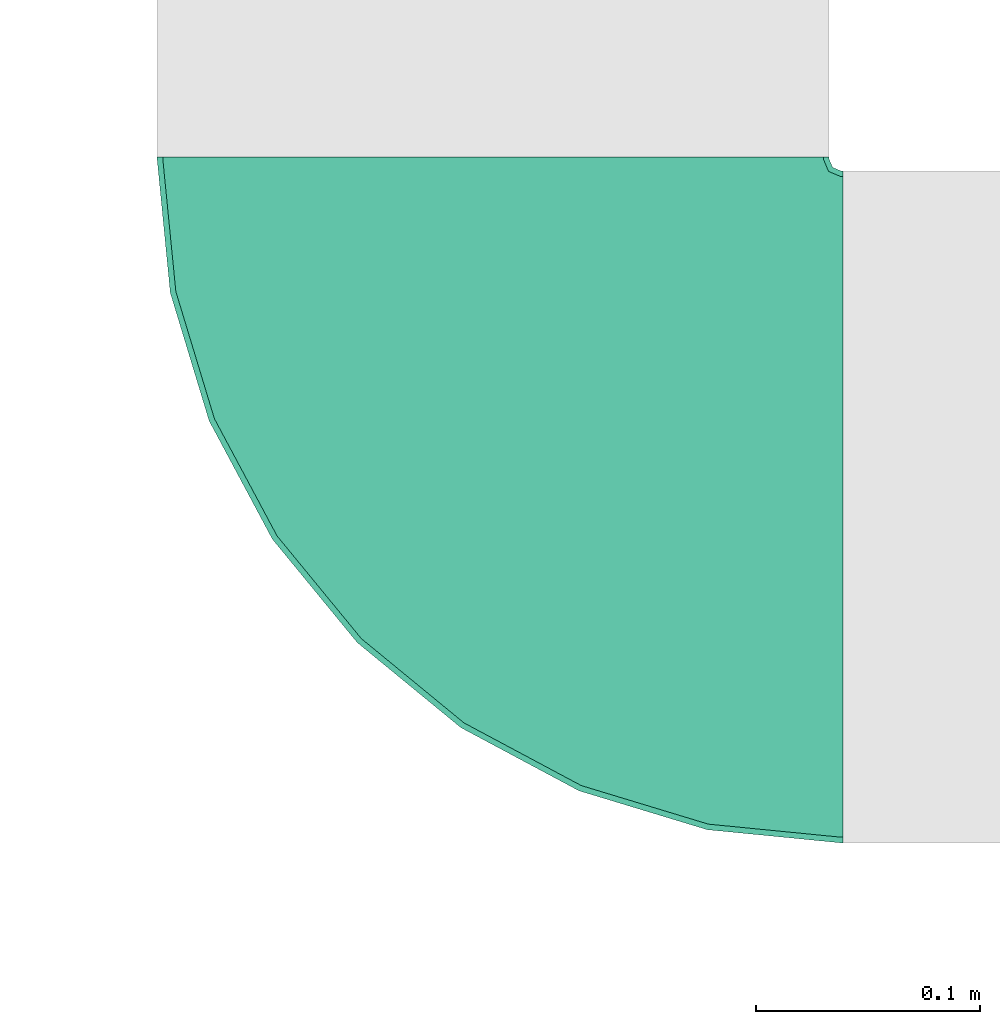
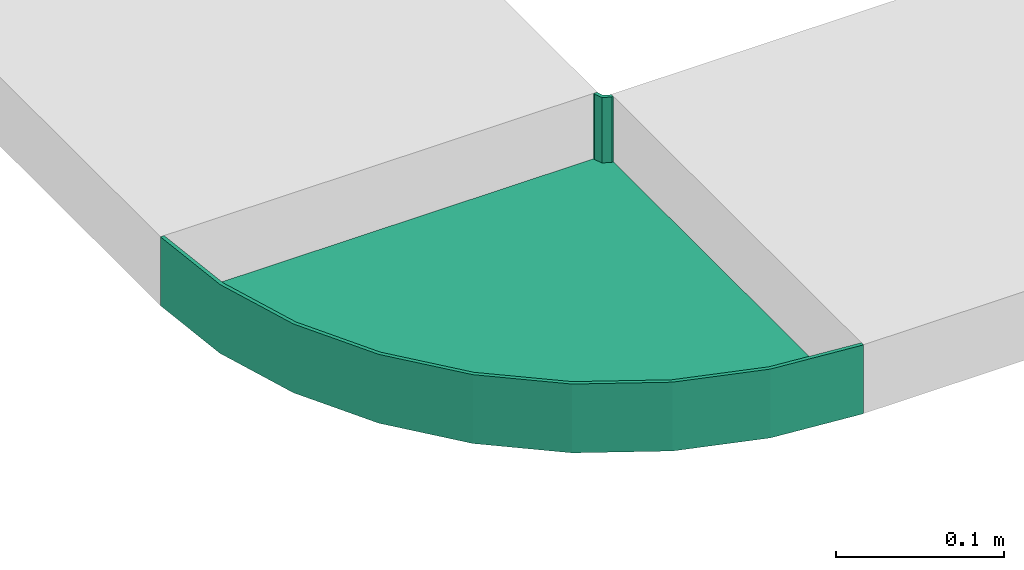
# One storey, part 36 of 153: 1 flow fitting.
"""IFC2X3 building model written with IfcOpenShell, lengths in metres."""

import ifcopenshell
import ifcopenshell.guid

model = None  # the IFC model being written
_history = None  # IfcOwnerHistory: only IFC2X3 demands one
_inside = {}  # id of a spatial element -> (the spatial element, [elements in it])
_under = {}  # id of a project, library or spatial element -> (it, [spatial elements below it])
_declared = {}  # id of a project -> (the project, [libraries it declares])
_typed = {}  # id of a type object -> (the type object, [elements of that type])
_made_of = {}  # id of a material, layer set ... -> (it, [elements and type objects made of it])


def new_model(schema):
    """Start an empty IFC model of exactly this schema.

    Asked for "IFC4X3", IfcOpenShell would pick the latest addendum, in which some entities
    have other attributes; the version numbers below select the first issue.
    IFC2X3 requires an IfcOwnerHistory on every rooted entity: one is made here for all.
    """
    global model, _history
    if schema == "IFC4X3":
        model = ifcopenshell.file(schema_version=(4, 3, 0, 0))
    else:
        model = ifcopenshell.file(schema=schema)
    _inside.clear()
    _under.clear()
    _declared.clear()
    _typed.clear()
    _made_of.clear()
    _history = None
    if model.schema == "IFC2X3":
        org = make("IfcOrganization", Name="unknown")
        user = make(
            "IfcPersonAndOrganization",
            ThePerson=make("IfcPerson", FamilyName="unknown"),
            TheOrganization=org,
        )
        app = make(
            "IfcApplication",
            ApplicationDeveloper=org,
            Version="unknown",
            ApplicationFullName="unknown",
            ApplicationIdentifier="unknown",
        )
        _history = make(
            "IfcOwnerHistory",
            OwningUser=user,
            OwningApplication=app,
            ChangeAction="ADDED",
            CreationDate=0,
        )
    return model


def make(cls, **values):
    """One entity of the class cls with the attributes given. An attribute that is None is left unset."""
    return model.create_entity(
        cls, **{name: value for name, value in values.items() if value is not None}
    )


def entity(cls, *values):
    """Any entity or typed value of the class cls, its attributes in the order of the schema. None: left unset."""
    e = model.create_entity(cls)
    for i, value in enumerate(values):
        if value is not None:
            e[i] = value
    return e


def rooted(cls, **values):
    """An entity with a GlobalId (a new one), such as an element, a storey or a relation."""
    return make(cls, GlobalId=ifcopenshell.guid.new(), OwnerHistory=_history, **values)


def si_unit(unit_type, name, prefix=None):
    """IfcSIUnit, for example si_unit("LENGTHUNIT", "METRE", prefix="MILLI")."""
    return make("IfcSIUnit", UnitType=unit_type, Prefix=prefix, Name=name)


def converted_unit(unit_type, name, factor, base, dimensions=None, offset=None):
    """IfcConversionBasedUnit, such as the inch: factor (a typed value) times the base unit."""
    return make(
        "IfcConversionBasedUnit"
        if offset is None
        else "IfcConversionBasedUnitWithOffset",
        ConversionOffset=offset,
        Dimensions=None
        if dimensions is None
        else entity("IfcDimensionalExponents", *dimensions),
        UnitType=unit_type,
        Name=name,
        ConversionFactor=make(
            "IfcMeasureWithUnit", ValueComponent=factor, UnitComponent=base
        ),
    )


def derived_unit(unit_type, elements):
    """IfcDerivedUnit: a product of units, each with its exponent."""
    return make(
        "IfcDerivedUnit",
        Elements=[
            make("IfcDerivedUnitElement", Unit=unit, Exponent=power)
            for unit, power in elements
        ],
        UnitType=unit_type,
    )


def assignment(units):
    """IfcUnitAssignment: the units of a project."""
    return None if units is None else make("IfcUnitAssignment", Units=units)


def point(xyz):
    """IfcCartesianPoint."""
    return None if xyz is None else make("IfcCartesianPoint", Coordinates=xyz)


def direction(xyz):
    """IfcDirection."""
    return None if xyz is None else make("IfcDirection", DirectionRatios=xyz)


def frame(location, z_axis=None, x_axis=None):
    """IfcAxis2Placement3D, a coordinate frame: its origin and axes. An axis left out is left unset."""
    return make(
        "IfcAxis2Placement3D",
        Location=point(location),
        Axis=direction(z_axis),
        RefDirection=direction(x_axis),
    )


def origin():
    """The frame at (0, 0, 0) with its axes left unset."""
    return frame((0.0, 0.0, 0.0))


def place(relative_to, where):
    """IfcLocalPlacement: puts the frame where relative to a parent placement (None: the world)."""
    return make(
        "IfcLocalPlacement", PlacementRelTo=relative_to, RelativePlacement=where
    )


def context(
    kind, dimensions, precision=None, world=None, true_north=None, identifier=None
):
    """IfcGeometricRepresentationContext, for example the 3D "Model" context."""
    return make(
        "IfcGeometricRepresentationContext",
        ContextIdentifier=identifier,
        ContextType=kind,
        CoordinateSpaceDimension=dimensions,
        Precision=precision,
        WorldCoordinateSystem=world,
        TrueNorth=true_north,
    )


def subcontext(parent, identifier, kind, view, scale=None):
    """IfcGeometricRepresentationSubContext, for example "Body" below "Model"."""
    return make(
        "IfcGeometricRepresentationSubContext",
        ContextIdentifier=identifier,
        ContextType=kind,
        ParentContext=parent,
        TargetScale=scale,
        TargetView=view,
    )


def project(units=None, contexts=None):
    """IfcProject with its units and contexts."""
    return rooted(
        "IfcProject",
        Name="project",
        RepresentationContexts=contexts,
        UnitsInContext=assignment(units),
    )


def spatial(cls, under=None, at=None, **own):
    """A site, building, storey or space (cls), placed at a placement, below another one or the project."""
    s = rooted(cls, ObjectPlacement=at, **own)
    if under is not None:
        _under.setdefault(under.id(), (under, []))[1].append(s)
    return s


def faces_of(points, faces, orient=None, outer=None):
    """IfcFace entities. A face is a list of loops; a loop is a list of indices into points, from 0.

    orient and outer hold one flag for each loop. By default every Orientation is true, the
    first loop of a face is its IfcFaceOuterBound and the others are IfcFaceBound.
    """
    made = []
    for i, loops in enumerate(faces):
        bounds = []
        for j, loop in enumerate(loops):
            is_outer = j == 0 if outer is None else outer[i][j]
            bounds.append(
                make(
                    "IfcFaceOuterBound" if is_outer else "IfcFaceBound",
                    Bound=make("IfcPolyLoop", Polygon=[points[k] for k in loop]),
                    Orientation=True if orient is None else orient[i][j],
                )
            )
        made.append(make("IfcFace", Bounds=bounds))
    return made


def faceted_brep(points, faces, orient=None, outer=None, voids=None):
    """IfcFacetedBrep: a solid bounded by flat faces; with voids (closed shells), ...WithVoids."""
    shared = [point(p) for p in points]
    hull = make("IfcClosedShell", CfsFaces=faces_of(shared, faces, orient, outer))
    if voids is None:
        return make("IfcFacetedBrep", Outer=hull)
    return make(
        "IfcFacetedBrepWithVoids",
        Outer=hull,
        Voids=[
            make(cls, CfsFaces=faces_of(shared, fs, o, b)) for cls, fs, o, b in voids
        ],
    )


def shape(context_of_items, identifier, shape_type, items):
    """IfcShapeRepresentation: the items that make up one representation, for example the "Body"."""
    return make(
        "IfcShapeRepresentation",
        ContextOfItems=context_of_items,
        RepresentationIdentifier=identifier,
        RepresentationType=shape_type,
        Items=items,
    )


def source(mapping_origin, context_of_items, identifier, shape_type, items):
    """IfcRepresentationMap: a shape defined once, which mapped items show again and again."""
    return make(
        "IfcRepresentationMap",
        MappingOrigin=mapping_origin,
        MappedRepresentation=shape(context_of_items, identifier, shape_type, items),
    )


def transform(
    local_origin,
    x_axis=None,
    y_axis=None,
    z_axis=None,
    scale=None,
    scale2=None,
    scale3=None,
    uniform=True,
):
    """IfcCartesianTransformationOperator3D, or its non-uniform kind. x_axis, y_axis, z_axis: its Axis1, 2, 3."""
    if uniform:
        return make(
            "IfcCartesianTransformationOperator3D",
            Axis1=direction(x_axis),
            Axis2=direction(y_axis),
            LocalOrigin=point(local_origin),
            Scale=scale,
            Axis3=direction(z_axis),
        )
    return make(
        "IfcCartesianTransformationOperator3DnonUniform",
        Axis1=direction(x_axis),
        Axis2=direction(y_axis),
        LocalOrigin=point(local_origin),
        Scale=scale,
        Axis3=direction(z_axis),
        Scale2=scale2,
        Scale3=scale3,
    )


def mapped(mapping_source, mapping_target):
    """IfcMappedItem: shows the shape of a source again, moved by a transform."""
    return make(
        "IfcMappedItem", MappingSource=mapping_source, MappingTarget=mapping_target
    )


def made_of(thing, what):
    """Note that an element or type object is made of a material, layer set ...; save() writes the relation."""
    if what is not None:
        _made_of.setdefault(what.id(), (what, []))[1].append(thing)
    return thing


def type_object(cls, material=None, **own):
    """A type object (cls), such as IfcWallType, which elements share."""
    return made_of(rooted(cls, **own), material)


def type_shapes(of_type, sources):
    """Give a type object the sources (RepresentationMaps) that its elements show as mapped items."""
    of_type.RepresentationMaps = sources


def element(
    cls,
    number,
    at=None,
    inside=None,
    cuts=None,
    type_object=None,
    material=None,
    context=None,
    identifier="Body",
    shape_type=None,
    held_by="IfcProductDefinitionShape",
    body=None,
    shapes=None,
    **own,
):
    """One element of the class cls, such as IfcWall. Its Tag is "e" and its number.

    at: its placement. inside: the storey or other place that contains it. cuts: it is an
    opening in that element (IfcRelVoidsElement). A single representation is given by context,
    identifier, shape_type and body (its items); several are given by shapes. held_by: the class
    of the entity that holds the representations. save() writes the other relations.
    """
    e = rooted(cls, Tag="e%d" % number, ObjectPlacement=at, **own)
    if body is not None:
        shapes = [shape(context, identifier, shape_type, body)]
    if shapes is not None:
        e.Representation = make(held_by, Representations=shapes)
    if inside is not None:
        _inside.setdefault(inside.id(), (inside, []))[1].append(e)
    if cuts is not None:
        rooted(
            "IfcRelVoidsElement", RelatingBuildingElement=cuts, RelatedOpeningElement=e
        )
    if type_object is not None:
        _typed.setdefault(type_object.id(), (type_object, []))[1].append(e)
    return made_of(e, material)


def aggregate(whole, parts):
    """IfcRelAggregates: a whole, such as a stair, and the parts it consists of."""
    return rooted("IfcRelAggregates", RelatingObject=whole, RelatedObjects=parts)


def save(model, path):
    """Write the relations noted so far, then the file.

    IfcRelAggregates (storeys below a building ...), IfcRelContainedInSpatialStructure (elements
    in a storey), IfcRelDefinesByType, IfcRelAssociatesMaterial and IfcRelDeclares: one each for
    every whole, place, type object, material and project.
    """
    for whole, parts in _under.values():
        aggregate(whole, parts)
    for where, things in _inside.values():
        rooted(
            "IfcRelContainedInSpatialStructure",
            RelatedElements=things,
            RelatingStructure=where,
        )
    for kind, things in _typed.values():
        rooted("IfcRelDefinesByType", RelatedObjects=things, RelatingType=kind)
    for what, things in _made_of.values():
        rooted("IfcRelAssociatesMaterial", RelatedObjects=things, RelatingMaterial=what)
    for by, libraries in _declared.values():
        rooted("IfcRelDeclares", RelatingContext=by, RelatedDefinitions=libraries)
    model.write(path)


model = new_model("IFC2X3")

# Units and contexts
model_context = context("Model", 3, precision=1e-05, world=origin(), true_north=direction((6.12303176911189e-17, 1.0)))
body_context = subcontext(model_context, "Body", "Model", "MODEL_VIEW")
ifc_project = project(units=[si_unit("LENGTHUNIT", "METRE"), si_unit("AREAUNIT", "SQUARE_METRE"), si_unit("VOLUMEUNIT", "CUBIC_METRE"), converted_unit("PLANEANGLEUNIT", "DEGREE", entity("IfcRatioMeasure", 0.0174532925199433), si_unit("PLANEANGLEUNIT", "RADIAN"), dimensions=[0, 0, 0, 0, 0, 0, 0]), si_unit("MASSUNIT", "GRAM", prefix="KILO"), derived_unit("MASSDENSITYUNIT", [(si_unit("MASSUNIT", "GRAM", prefix="KILO"), 1), (si_unit("LENGTHUNIT", "METRE"), -3)]), si_unit("TIMEUNIT", "SECOND"), si_unit("FREQUENCYUNIT", "HERTZ"), si_unit("THERMODYNAMICTEMPERATUREUNIT", "DEGREE_CELSIUS"), derived_unit("THERMALTRANSMITTANCEUNIT", [(si_unit("MASSUNIT", "GRAM", prefix="KILO"), 1), (si_unit("THERMODYNAMICTEMPERATUREUNIT", "KELVIN"), -1), (si_unit("TIMEUNIT", "SECOND"), -3)]), derived_unit("VOLUMETRICFLOWRATEUNIT", [(si_unit("LENGTHUNIT", "METRE"), 3), (si_unit("TIMEUNIT", "SECOND"), -1)]), si_unit("ELECTRICCURRENTUNIT", "AMPERE"), si_unit("ELECTRICVOLTAGEUNIT", "VOLT"), si_unit("POWERUNIT", "WATT"), si_unit("FORCEUNIT", "NEWTON"), si_unit("ILLUMINANCEUNIT", "LUX"), si_unit("LUMINOUSFLUXUNIT", "LUMEN"), si_unit("LUMINOUSINTENSITYUNIT", "CANDELA"), derived_unit("USERDEFINED", [(si_unit("MASSUNIT", "GRAM", prefix="KILO"), -1), (si_unit("LENGTHUNIT", "METRE"), -2), (si_unit("TIMEUNIT", "SECOND"), 3), (si_unit("LUMINOUSFLUXUNIT", "LUMEN"), 1)]), derived_unit("LINEARVELOCITYUNIT", [(si_unit("LENGTHUNIT", "METRE"), 1), (si_unit("TIMEUNIT", "SECOND"), -1)]), si_unit("PRESSUREUNIT", "PASCAL"), derived_unit("USERDEFINED", [(si_unit("LENGTHUNIT", "METRE"), -2), (si_unit("MASSUNIT", "GRAM", prefix="KILO"), 1), (si_unit("TIMEUNIT", "SECOND"), -2)])], contexts=[model_context])

# Site, building, storey
site_placement = place(None, origin())
site = spatial("IfcSite", under=ifc_project, at=site_placement, Name="Default", CompositionType="ELEMENT")
building_placement = place(site_placement, origin())
building = spatial("IfcBuilding", under=site, at=building_placement, CompositionType="ELEMENT")
storey_placement = place(building_placement, frame((0.0, 0.0, -4.62)))
storey = spatial("IfcBuildingStorey", under=building, at=storey_placement, Name="S02", CompositionType="ELEMENT", Elevation=-4.62)

# Flow fitting
cable_carrier_fitting_type = type_object("IfcCableCarrierFittingType", Name="E_Bend_Horizontal_CA_Generic_MEPcontent", PredefinedType="NOTDEFINED")
shared_shape = source(origin(), body_context, "Body", "Brep", [
    faceted_brep([(-0.149999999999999, 0.15507999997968, -0.025), (-0.149999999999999, 0.15507999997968, 0.025), (-0.147460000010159, 0.15507999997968, 0.025), (-0.147460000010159, 0.15507999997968, -0.02246000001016), (0.147460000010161, 0.15507999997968, -0.02246000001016), (0.147460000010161, 0.15507999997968, 0.025), (0.150000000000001, 0.15507999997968, 0.025), (0.150000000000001, 0.15507999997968, -0.025), (-0.155079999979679, -0.15, -0.025), (-0.155079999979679, -0.15, 0.025), (-0.155079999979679, -0.14746000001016, 0.025), (-0.155079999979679, -0.14746000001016, -0.02246000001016), (-0.155079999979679, 0.14746000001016, -0.02246000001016), (-0.155079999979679, 0.14746000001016, 0.025), (-0.155079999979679, 0.15, 0.025), (-0.155079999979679, 0.15, -0.025), (-0.15148789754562, 0.151487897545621, -0.025), (-0.15148789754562, 0.151487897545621, 0.025), (-0.14969184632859, 0.149691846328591, 0.025), (-0.0955618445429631, -0.144137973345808, 0.025), (-0.0383309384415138, -0.12677716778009, 0.025), (0.0144133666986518, -0.0985847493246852, 0.025), (0.0606441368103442, -0.0606441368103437, 0.025), (0.0985847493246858, -0.0144133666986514, 0.025), (0.126777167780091, 0.0383309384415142, 0.025), (0.144137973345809, 0.0955618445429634, 0.025), (0.141646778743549, 0.0960573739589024, 0.025), (0.124430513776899, 0.0393029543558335, 0.025), (0.0964728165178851, -0.013002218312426, 0.025), (0.0588480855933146, -0.058848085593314, 0.025), (0.0130022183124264, -0.0964728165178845, 0.025), (-0.0393029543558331, -0.124430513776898, 0.025), (-0.096057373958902, -0.141646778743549, 0.025), (-0.14969184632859, 0.149691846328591, -0.02246000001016), (-0.0960573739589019, -0.141646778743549, -0.02246000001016), (-0.0393029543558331, -0.124430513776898, -0.02246000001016), (0.0130022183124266, -0.0964728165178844, -0.02246000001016), (0.0588480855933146, -0.0588480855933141, -0.02246000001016), (0.096472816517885, -0.0130022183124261, -0.02246000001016), (0.124430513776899, 0.0393029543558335, -0.02246000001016), (0.141646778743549, 0.0960573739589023, -0.02246000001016), (-0.0955618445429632, -0.144137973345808, -0.025), (-0.0383309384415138, -0.12677716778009, -0.025), (0.0144133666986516, -0.0985847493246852, -0.025), (0.0606441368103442, -0.0606441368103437, -0.025), (0.0985847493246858, -0.0144133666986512, -0.025), (0.126777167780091, 0.0383309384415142, -0.025), (0.144137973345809, 0.0955618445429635, -0.025)], [[[0, 1, 2, 3, 4, 5, 6, 7]], [[8, 9, 10, 11, 12, 13, 14, 15]], [[16, 15, 14, 17]], [[17, 1, 0, 16]], [[13, 18, 2, 1, 17, 14]], [[10, 9, 19, 20, 21, 22, 23, 24, 25, 6, 5, 26, 27, 28, 29, 30, 31, 32]], [[13, 12, 33, 18]], [[18, 33, 3, 2]], [[12, 11, 34, 35, 36, 37, 38, 39, 40, 4, 3, 33]], [[34, 11, 10, 32]], [[31, 35, 34, 32]], [[35, 31, 30, 36]], [[29, 37, 36, 30]], [[39, 38, 28, 27]], [[40, 39, 27, 26]], [[4, 40, 26, 5]], [[29, 28, 38, 37]], [[19, 9, 8, 41]], [[41, 42, 20, 19]], [[43, 21, 20, 42]], [[44, 22, 21, 43]], [[23, 45, 46, 24]], [[24, 46, 47, 25]], [[25, 47, 7, 6]], [[44, 45, 23, 22]], [[41, 8, 15, 16, 0, 7, 47, 46, 45, 44, 43, 42]]]),
    faceted_brep([(0.150000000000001, 0.155079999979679, -0.025), (0.150000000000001, 0.155079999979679, 0.025), (0.147460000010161, 0.155079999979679, 0.025), (0.147460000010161, 0.155079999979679, -0.02246000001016), (-0.147460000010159, 0.15507999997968, -0.02246000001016), (-0.147460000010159, 0.15507999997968, 0.025), (-0.149999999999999, 0.15507999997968, 0.025), (-0.149999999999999, 0.15507999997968, -0.025), (0.150000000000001, 0.156079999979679, -0.025), (-0.149999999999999, 0.15607999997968, -0.025), (-0.149999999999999, 0.15607999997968, 0.025), (-0.147460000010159, 0.15607999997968, 0.025), (-0.147460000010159, 0.15607999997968, -0.02246000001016), (0.147460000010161, 0.156079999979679, -0.02246000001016), (0.147460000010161, 0.156079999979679, 0.025), (0.150000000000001, 0.156079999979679, 0.025)], [[[0, 1, 2, 3, 4, 5, 6, 7]], [[8, 9, 10, 11, 12, 13, 14, 15]], [[1, 0, 8, 15]], [[2, 1, 15, 14]], [[3, 2, 14, 13]], [[4, 3, 13, 12]], [[5, 4, 12, 11]], [[6, 5, 11, 10]], [[7, 6, 10, 9]], [[0, 7, 9, 8]]]),
    faceted_brep([(-0.155079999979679, 0.15, -0.025), (-0.155079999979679, 0.15, 0.025), (-0.155079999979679, 0.14746000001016, 0.025), (-0.155079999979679, 0.14746000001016, -0.02246000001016), (-0.155079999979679, -0.14746000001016, -0.02246000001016), (-0.155079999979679, -0.14746000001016, 0.025), (-0.155079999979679, -0.15, 0.025), (-0.155079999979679, -0.15, -0.025), (-0.156079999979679, 0.15, -0.025), (-0.156079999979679, -0.15, -0.025), (-0.156079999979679, -0.15, 0.025), (-0.156079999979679, -0.14746000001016, 0.025), (-0.156079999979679, -0.14746000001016, -0.02246000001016), (-0.156079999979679, 0.14746000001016, -0.02246000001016), (-0.156079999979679, 0.14746000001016, 0.025), (-0.156079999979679, 0.15, 0.025)], [[[0, 1, 2, 3, 4, 5, 6, 7]], [[8, 9, 10, 11, 12, 13, 14, 15]], [[1, 0, 8, 15]], [[2, 1, 15, 14]], [[3, 2, 14, 13]], [[4, 3, 13, 12]], [[5, 4, 12, 11]], [[6, 5, 11, 10]], [[7, 6, 10, 9]], [[0, 7, 9, 8]]]),
])
type_shapes(cable_carrier_fitting_type, [shared_shape])
flow_fitting_placement = place(building_placement, frame((37.0993394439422, -193.697139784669, -0.830999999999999), z_axis=(0.0, 0.0, 1.0), x_axis=(0.0, -1.0, 0.0)))
element("IfcFlowFitting", 1, at=flow_fitting_placement, inside=storey, type_object=cable_carrier_fitting_type, Name="E_Bend_Horizontal_CA_Generic_MEPcontent:E_Bend_Horizontal_CA_Generic_MEPcontent", ObjectType="E_Bend_Horizontal_CA_Generic_MEPcontent:E_Bend_Horizontal_CA_Generic_MEPcontent", context=body_context, shape_type="MappedRepresentation", body=[
    mapped(shared_shape, transform((0.0, 0.0, 0.0), scale=1.0)),
])

save(model, "model.ifc")
